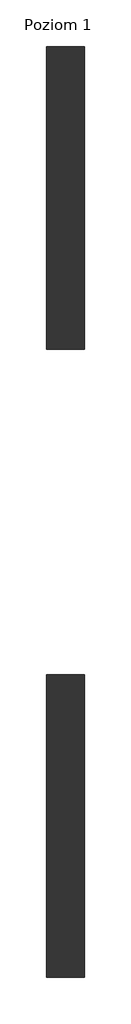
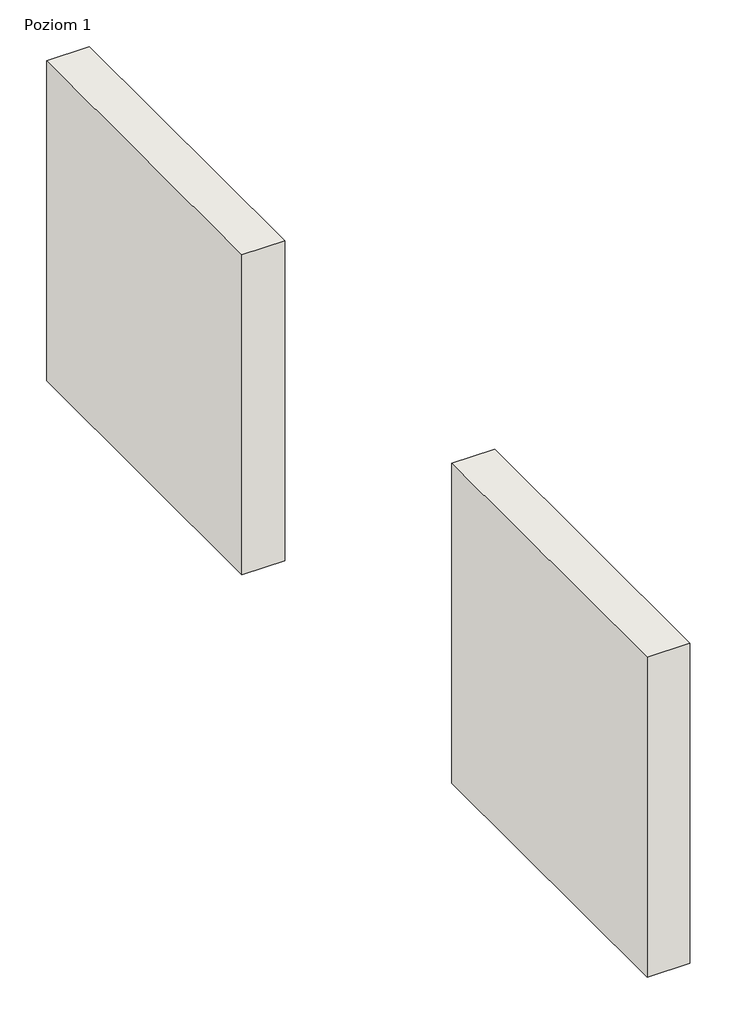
# One storey: 2 walls.
"""IFC4 building model written with IfcOpenShell, lengths in millimetres."""

import ifcopenshell
import ifcopenshell.guid

model = None  # the IFC model being written
_history = None  # IfcOwnerHistory: only IFC2X3 demands one
_inside = {}  # id of a spatial element -> (the spatial element, [elements in it])
_under = {}  # id of a project, library or spatial element -> (it, [spatial elements below it])
_declared = {}  # id of a project -> (the project, [libraries it declares])
_typed = {}  # id of a type object -> (the type object, [elements of that type])
_made_of = {}  # id of a material, layer set ... -> (it, [elements and type objects made of it])


def new_model(schema):
    """Start an empty IFC model of exactly this schema.

    Asked for "IFC4X3", IfcOpenShell would pick the latest addendum, in which some entities
    have other attributes; the version numbers below select the first issue.
    IFC2X3 requires an IfcOwnerHistory on every rooted entity: one is made here for all.
    """
    global model, _history
    if schema == "IFC4X3":
        model = ifcopenshell.file(schema_version=(4, 3, 0, 0))
    else:
        model = ifcopenshell.file(schema=schema)
    _inside.clear()
    _under.clear()
    _declared.clear()
    _typed.clear()
    _made_of.clear()
    _history = None
    if model.schema == "IFC2X3":
        org = make("IfcOrganization", Name="unknown")
        user = make(
            "IfcPersonAndOrganization",
            ThePerson=make("IfcPerson", FamilyName="unknown"),
            TheOrganization=org,
        )
        app = make(
            "IfcApplication",
            ApplicationDeveloper=org,
            Version="unknown",
            ApplicationFullName="unknown",
            ApplicationIdentifier="unknown",
        )
        _history = make(
            "IfcOwnerHistory",
            OwningUser=user,
            OwningApplication=app,
            ChangeAction="ADDED",
            CreationDate=0,
        )
    return model


def make(cls, **values):
    """One entity of the class cls with the attributes given. An attribute that is None is left unset."""
    return model.create_entity(
        cls, **{name: value for name, value in values.items() if value is not None}
    )


def rooted(cls, **values):
    """An entity with a GlobalId (a new one), such as an element, a storey or a relation."""
    return make(cls, GlobalId=ifcopenshell.guid.new(), OwnerHistory=_history, **values)


def si_unit(unit_type, name, prefix=None):
    """IfcSIUnit, for example si_unit("LENGTHUNIT", "METRE", prefix="MILLI")."""
    return make("IfcSIUnit", UnitType=unit_type, Prefix=prefix, Name=name)


def assignment(units):
    """IfcUnitAssignment: the units of a project."""
    return None if units is None else make("IfcUnitAssignment", Units=units)


def point(xyz):
    """IfcCartesianPoint."""
    return None if xyz is None else make("IfcCartesianPoint", Coordinates=xyz)


def direction(xyz):
    """IfcDirection."""
    return None if xyz is None else make("IfcDirection", DirectionRatios=xyz)


def frame(location, z_axis=None, x_axis=None):
    """IfcAxis2Placement3D, a coordinate frame: its origin and axes. An axis left out is left unset."""
    return make(
        "IfcAxis2Placement3D",
        Location=point(location),
        Axis=direction(z_axis),
        RefDirection=direction(x_axis),
    )


def origin():
    """The frame at (0, 0, 0) with its axes left unset."""
    return frame((0.0, 0.0, 0.0))


def origin_with_axes():
    """The frame at (0, 0, 0) with the z axis (0, 0, 1) and the x axis (1, 0, 0) written out."""
    return frame((0.0, 0.0, 0.0), z_axis=(0.0, 0.0, 1.0), x_axis=(1.0, 0.0, 0.0))


def place(relative_to, where):
    """IfcLocalPlacement: puts the frame where relative to a parent placement (None: the world)."""
    return make(
        "IfcLocalPlacement", PlacementRelTo=relative_to, RelativePlacement=where
    )


def context(
    kind, dimensions, precision=None, world=None, true_north=None, identifier=None
):
    """IfcGeometricRepresentationContext, for example the 3D "Model" context."""
    return make(
        "IfcGeometricRepresentationContext",
        ContextIdentifier=identifier,
        ContextType=kind,
        CoordinateSpaceDimension=dimensions,
        Precision=precision,
        WorldCoordinateSystem=world,
        TrueNorth=true_north,
    )


def project(units=None, contexts=None):
    """IfcProject with its units and contexts."""
    return rooted(
        "IfcProject",
        Name="project",
        RepresentationContexts=contexts,
        UnitsInContext=assignment(units),
    )


def spatial(cls, under=None, at=None, **own):
    """A site, building, storey or space (cls), placed at a placement, below another one or the project."""
    s = rooted(cls, ObjectPlacement=at, **own)
    if under is not None:
        _under.setdefault(under.id(), (under, []))[1].append(s)
    return s


def polyline(points):
    """IfcPolyline through the points."""
    return make("IfcPolyline", Points=[point(p) for p in points])


def outline(outer, holes=None, kind="AREA"):
    """IfcArbitraryClosedProfileDef: a profile drawn as a closed curve; with holes, ...WithVoids."""
    if holes is None:
        return make("IfcArbitraryClosedProfileDef", ProfileType=kind, OuterCurve=outer)
    return make(
        "IfcArbitraryProfileDefWithVoids",
        ProfileType=kind,
        OuterCurve=outer,
        InnerCurves=holes,
    )


def extrude(swept, where, along, depth):
    """IfcExtrudedAreaSolid: the profile swept, set in the frame where, extruded along a direction by depth."""
    return make(
        "IfcExtrudedAreaSolid",
        SweptArea=swept,
        Position=where,
        ExtrudedDirection=direction(along),
        Depth=depth,
    )


def shape(context_of_items, identifier, shape_type, items):
    """IfcShapeRepresentation: the items that make up one representation, for example the "Body"."""
    return make(
        "IfcShapeRepresentation",
        ContextOfItems=context_of_items,
        RepresentationIdentifier=identifier,
        RepresentationType=shape_type,
        Items=items,
    )


def made_of(thing, what):
    """Note that an element or type object is made of a material, layer set ...; save() writes the relation."""
    if what is not None:
        _made_of.setdefault(what.id(), (what, []))[1].append(thing)
    return thing


def element(
    cls,
    number,
    at=None,
    inside=None,
    cuts=None,
    type_object=None,
    material=None,
    context=None,
    identifier="Body",
    shape_type=None,
    held_by="IfcProductDefinitionShape",
    body=None,
    shapes=None,
    **own,
):
    """One element of the class cls, such as IfcWall. Its Tag is "e" and its number.

    at: its placement. inside: the storey or other place that contains it. cuts: it is an
    opening in that element (IfcRelVoidsElement). A single representation is given by context,
    identifier, shape_type and body (its items); several are given by shapes. held_by: the class
    of the entity that holds the representations. save() writes the other relations.
    """
    e = rooted(cls, Tag="e%d" % number, ObjectPlacement=at, **own)
    if body is not None:
        shapes = [shape(context, identifier, shape_type, body)]
    if shapes is not None:
        e.Representation = make(held_by, Representations=shapes)
    if inside is not None:
        _inside.setdefault(inside.id(), (inside, []))[1].append(e)
    if cuts is not None:
        rooted(
            "IfcRelVoidsElement", RelatingBuildingElement=cuts, RelatedOpeningElement=e
        )
    if type_object is not None:
        _typed.setdefault(type_object.id(), (type_object, []))[1].append(e)
    return made_of(e, material)


def aggregate(whole, parts):
    """IfcRelAggregates: a whole, such as a stair, and the parts it consists of."""
    return rooted("IfcRelAggregates", RelatingObject=whole, RelatedObjects=parts)


def save(model, path):
    """Write the relations noted so far, then the file.

    IfcRelAggregates (storeys below a building ...), IfcRelContainedInSpatialStructure (elements
    in a storey), IfcRelDefinesByType, IfcRelAssociatesMaterial and IfcRelDeclares: one each for
    every whole, place, type object, material and project.
    """
    for whole, parts in _under.values():
        aggregate(whole, parts)
    for where, things in _inside.values():
        rooted(
            "IfcRelContainedInSpatialStructure",
            RelatedElements=things,
            RelatingStructure=where,
        )
    for kind, things in _typed.values():
        rooted("IfcRelDefinesByType", RelatedObjects=things, RelatingType=kind)
    for what, things in _made_of.values():
        rooted("IfcRelAssociatesMaterial", RelatedObjects=things, RelatingMaterial=what)
    for by, libraries in _declared.values():
        rooted("IfcRelDeclares", RelatingContext=by, RelatedDefinitions=libraries)
    model.write(path)


model = new_model("IFC4")

# Units and contexts
model_context = context("Model", 3, world=origin())
ifc_project = project(units=[si_unit("LENGTHUNIT", "METRE", prefix="MILLI")], contexts=[model_context])

# Site, building, storey
site = spatial("IfcSite", under=ifc_project)
building = spatial("IfcBuilding", under=site)
storey = spatial("IfcBuildingStorey", under=building, Name="Poziom 1", Elevation=0.0)

# Walls
placement = place(None, origin())
element("IfcWall", 1, ObjectType="ProSystem - wełna mineralna", at=placement, inside=storey, context=model_context, shape_type="SweptSolid", body=[
    extrude(outline(polyline([(28092.3216655, -66674.2246931), (28092.3216655, -62674.2246931), (28598.3216655, -62674.2246931), (28598.3216655, -66674.2246931), (28092.3216655, -66674.2246931)])), origin_with_axes(), (0.0, 0.0, 1.0), 4000.0),
])
element("IfcWall", 2, ObjectType="ProSystem - płyta EPS", at=placement, inside=storey, context=model_context, shape_type="SweptSolid", body=[
    extrude(outline(polyline([(28092.8216655, -58374.2246931), (28092.8216655, -54374.2246931), (28597.8216655, -54374.2246931), (28597.8216655, -58374.2246931), (28092.8216655, -58374.2246931)])), origin_with_axes(), (0.0, 0.0, 1.0), 4000.0),
])

save(model, "model.ifc")
